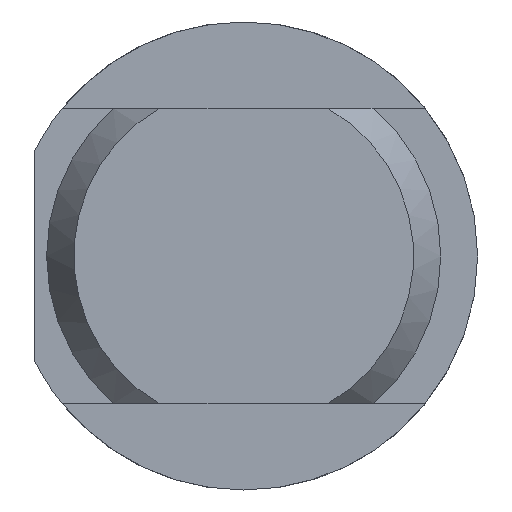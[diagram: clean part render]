
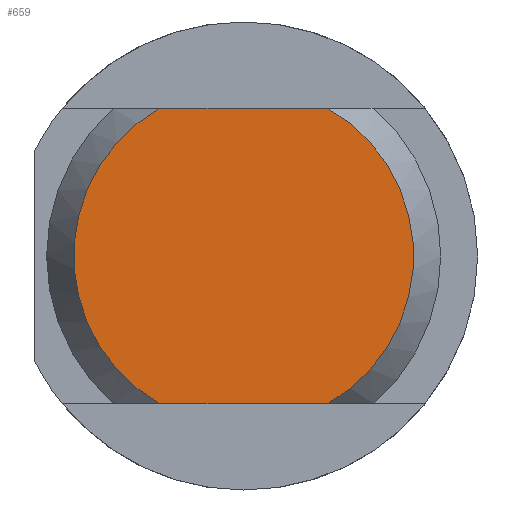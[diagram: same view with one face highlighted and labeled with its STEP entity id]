
A CAD part, left-side view. The second image highlights one B-rep face of the part: STEP entity #659.
In plain terms, the highlighted planar face has unit normal (-1, 0, 0).
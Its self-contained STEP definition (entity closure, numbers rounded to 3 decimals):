
#30 = AXIS2_PLACEMENT_3D ( 'NONE', #2258, #2263, #2264 ) ;
#294 = CIRCLE ( 'NONE', #1942, 6.9 ) ;
#297 = VECTOR ( 'NONE', #1292, 1000. ) ;
#298 = LINE ( 'NONE', #1291, #297 ) ;
#299 = CIRCLE ( 'NONE', #1943, 6.9 ) ;
#300 = LINE ( 'NONE', #1283, #302 ) ;
#302 = VECTOR ( 'NONE', #1276, 1000. ) ;
#659 = ADVANCED_FACE ( 'NONE', ( #1665 ), #2260, .T. ) ;
#873 = CARTESIAN_POINT ( 'NONE',  ( -98.241, -3.407, 6. ) ) ;
#878 = CARTESIAN_POINT ( 'NONE',  ( -98.241, -3.407, -6. ) ) ;
#887 = CARTESIAN_POINT ( 'NONE',  ( -98.241, 3.407, 6. ) ) ;
#895 = CARTESIAN_POINT ( 'NONE',  ( -98.241, 3.407, -6. ) ) ;
#1276 = DIRECTION ( 'NONE',  ( 0., -1., 0. ) ) ;
#1283 = CARTESIAN_POINT ( 'NONE',  ( -98.241, 0., 6. ) ) ;
#1284 = CARTESIAN_POINT ( 'NONE',  ( -98.241, 0., 0. ) ) ;
#1285 = DIRECTION ( 'NONE',  ( -1., 0., 0. ) ) ;
#1286 = DIRECTION ( 'NONE',  ( 0., 0., 1. ) ) ;
#1291 = CARTESIAN_POINT ( 'NONE',  ( -98.241, 0., -6. ) ) ;
#1292 = DIRECTION ( 'NONE',  ( 0., 1., 0. ) ) ;
#1295 = CARTESIAN_POINT ( 'NONE',  ( -98.241, 0., 0. ) ) ;
#1296 = DIRECTION ( 'NONE',  ( -1., 0., 0. ) ) ;
#1297 = DIRECTION ( 'NONE',  ( 0., 0., 1. ) ) ;
#1593 = EDGE_LOOP ( 'NONE', ( #2789, #2790, #2791, #2792 ) ) ;
#1665 = FACE_OUTER_BOUND ( 'NONE', #1593, .T. ) ;
#1942 = AXIS2_PLACEMENT_3D ( 'NONE', #1284, #1285, #1286 ) ;
#1943 = AXIS2_PLACEMENT_3D ( 'NONE', #1295, #1296, #1297 ) ;
#2021 = EDGE_CURVE ( 'NONE', #2635, #2643, #294, .T. ) ;
#2023 = EDGE_CURVE ( 'NONE', #2537, #2643, #298, .T. ) ;
#2024 = EDGE_CURVE ( 'NONE', #2537, #2532, #299, .T. ) ;
#2025 = EDGE_CURVE ( 'NONE', #2635, #2532, #300, .T. ) ;
#2258 = CARTESIAN_POINT ( 'NONE',  ( -98.241, 0., 0. ) ) ;
#2260 = PLANE ( 'NONE',  #30 ) ;
#2263 = DIRECTION ( 'NONE',  ( -1., 0., 0. ) ) ;
#2264 = DIRECTION ( 'NONE',  ( 0., 0., 1. ) ) ;
#2532 = VERTEX_POINT ( 'NONE', #873 ) ;
#2537 = VERTEX_POINT ( 'NONE', #878 ) ;
#2635 = VERTEX_POINT ( 'NONE', #887 ) ;
#2643 = VERTEX_POINT ( 'NONE', #895 ) ;
#2789 = ORIENTED_EDGE ( 'NONE', *, *, #2023, .F. ) ;
#2790 = ORIENTED_EDGE ( 'NONE', *, *, #2024, .T. ) ;
#2791 = ORIENTED_EDGE ( 'NONE', *, *, #2025, .F. ) ;
#2792 = ORIENTED_EDGE ( 'NONE', *, *, #2021, .T. ) ;
